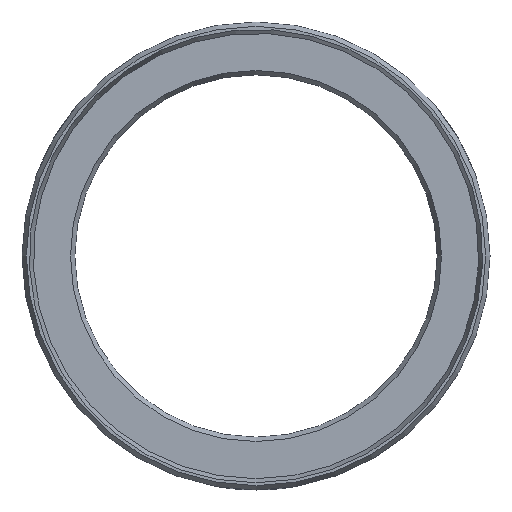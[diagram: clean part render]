
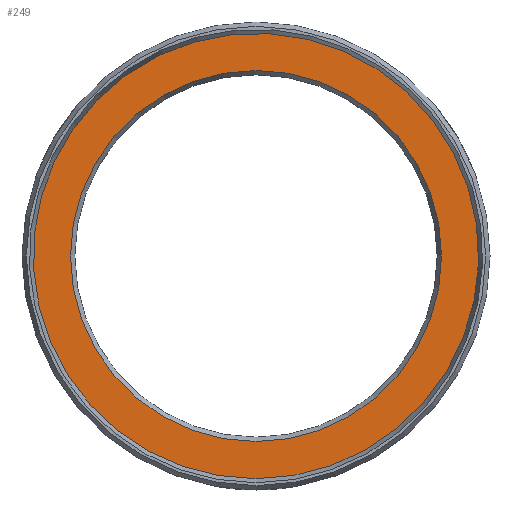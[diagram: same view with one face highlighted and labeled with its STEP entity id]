
A CAD part, left-side view. The second image highlights one B-rep face of the part: STEP entity #249.
In plain terms, the highlighted planar face has unit normal (-1, 0, 0).
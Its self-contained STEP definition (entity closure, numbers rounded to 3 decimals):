
#106=PLANE('',#985);
#249=ADVANCED_FACE('',(#309,#310),#106,.T.);
#309=FACE_BOUND('',#364,.T.);
#310=FACE_BOUND('',#365,.T.);
#364=EDGE_LOOP('',(#571));
#365=EDGE_LOOP('',(#572));
#571=ORIENTED_EDGE('',*,*,#816,.T.);
#572=ORIENTED_EDGE('',*,*,#815,.F.);
#701=VERTEX_POINT('',#1611);
#702=VERTEX_POINT('',#1614);
#815=EDGE_CURVE('',#701,#701,#881,.T.);
#816=EDGE_CURVE('',#702,#702,#882,.T.);
#881=CIRCLE('',#982,29.5);
#882=CIRCLE('',#984,24.577);
#982=AXIS2_PLACEMENT_3D('',#1610,#1195,#1196);
#984=AXIS2_PLACEMENT_3D('',#1613,#1199,#1200);
#985=AXIS2_PLACEMENT_3D('',#1615,#1201,#1202);
#1195=DIRECTION('',(1.,0.,0.));
#1196=DIRECTION('',(0.,0.,-1.));
#1199=DIRECTION('',(1.,0.,0.));
#1200=DIRECTION('',(0.,0.,1.));
#1201=DIRECTION('',(-1.,0.,0.));
#1202=DIRECTION('',(0.,0.,1.));
#1610=CARTESIAN_POINT('',(0.,0.,0.));
#1611=CARTESIAN_POINT('',(0.,0.,-29.5));
#1613=CARTESIAN_POINT('',(0.,0.,0.));
#1614=CARTESIAN_POINT('',(0.,0.,24.577));
#1615=CARTESIAN_POINT('',(0.,29.5,0.));
